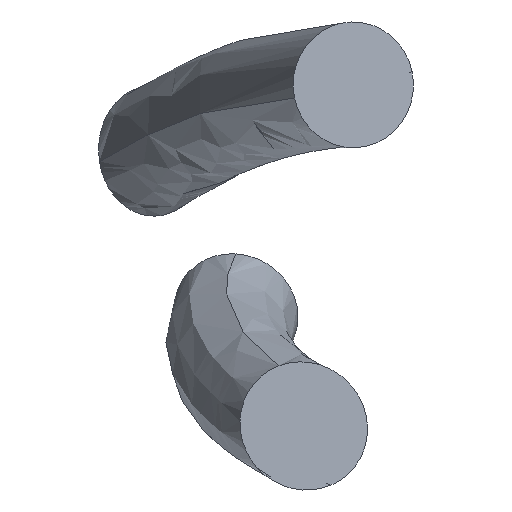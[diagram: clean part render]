
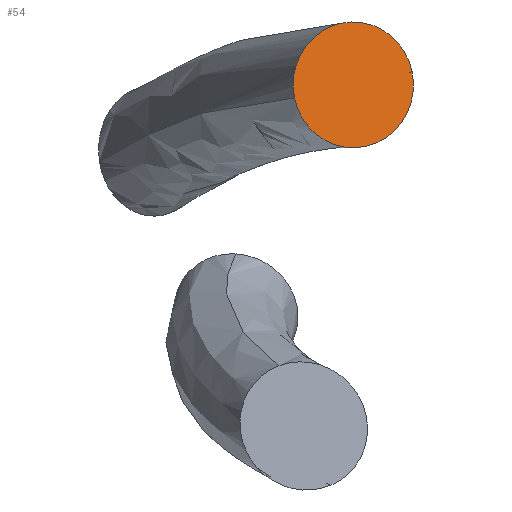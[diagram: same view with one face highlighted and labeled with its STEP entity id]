
A CAD part, top view. The second image highlights one B-rep face of the part: STEP entity #54.
In plain terms, the highlighted planar face has unit normal (0.292, 0, 0.956).
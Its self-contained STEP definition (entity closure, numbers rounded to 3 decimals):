
#16 = FACE_OUTER_BOUND ( 'NONE', #985, .T. ) ;
#21 = CARTESIAN_POINT ( 'NONE',  ( 401.048, -249.789, 966.447 ) ) ;
#22 = CIRCLE ( 'NONE', #405, 22.5 ) ;
#54 = ADVANCED_FACE ( 'NONE', ( #16 ), #1115, .T. ) ;
#99 = CARTESIAN_POINT ( 'NONE',  ( 422.09, -245.091, 960.014 ) ) ;
#157 = CARTESIAN_POINT ( 'NONE',  ( 422.09, -245.091, 960.014 ) ) ;
#276 = CARTESIAN_POINT ( 'NONE',  ( 443.133, -240.394, 953.58 ) ) ;
#387 = ORIENTED_EDGE ( 'NONE', *, *, #980, .T. ) ;
#397 = VERTEX_POINT ( 'NONE', #21 ) ;
#405 = AXIS2_PLACEMENT_3D ( 'NONE', #99, #688, #1201 ) ;
#489 = DIRECTION ( 'NONE',  ( 0.292, 0., 0.956 ) ) ;
#498 = VERTEX_POINT ( 'NONE', #276 ) ;
#506 = DIRECTION ( 'NONE',  ( 0.292, 0., 0.956 ) ) ;
#519 = CARTESIAN_POINT ( 'NONE',  ( 422.09, -245.091, 960.014 ) ) ;
#657 = EDGE_CURVE ( 'NONE', #498, #397, #690, .T. ) ;
#688 = DIRECTION ( 'NONE',  ( 0.292, 0., 0.956 ) ) ;
#690 = CIRCLE ( 'NONE', #819, 22.5 ) ;
#819 = AXIS2_PLACEMENT_3D ( 'NONE', #157, #506, #1227 ) ;
#879 = ORIENTED_EDGE ( 'NONE', *, *, #657, .T. ) ;
#974 = DIRECTION ( 'NONE',  ( -0.935, -0.209, 0.286 ) ) ;
#980 = EDGE_CURVE ( 'NONE', #397, #498, #22, .T. ) ;
#985 = EDGE_LOOP ( 'NONE', ( #387, #879 ) ) ;
#1115 = PLANE ( 'NONE',  #1177 ) ;
#1177 = AXIS2_PLACEMENT_3D ( 'NONE', #519, #489, #974 ) ;
#1201 = DIRECTION ( 'NONE',  ( -0.935, -0.209, 0.286 ) ) ;
#1227 = DIRECTION ( 'NONE',  ( -0.935, -0.209, 0.286 ) ) ;
